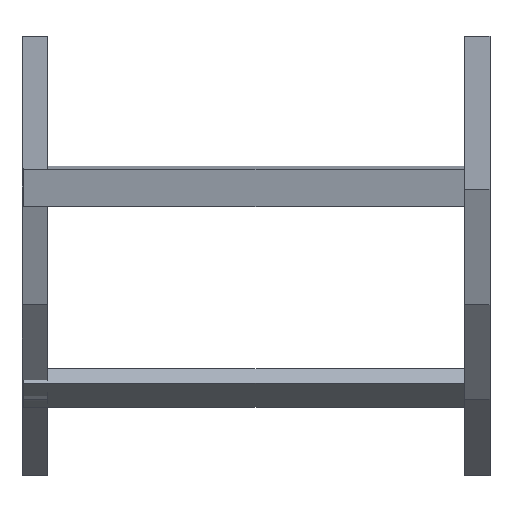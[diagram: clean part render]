
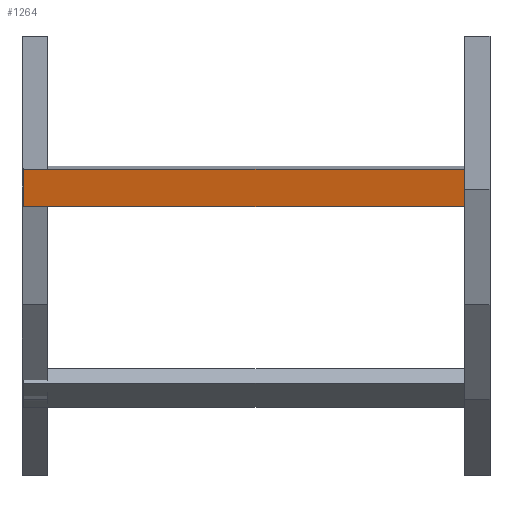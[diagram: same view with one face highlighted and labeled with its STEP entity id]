
A CAD part, front view. The second image highlights one B-rep face of the part: STEP entity #1264.
In plain terms, the highlighted planar face has unit normal (0, -0.985, -0.174) as drawn and (0, -1, 0) by its records, which use the part's own axes.
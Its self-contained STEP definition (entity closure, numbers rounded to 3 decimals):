
#44 = VECTOR ( 'NONE', #504, 1000. ) ;
#49 = VERTEX_POINT ( 'NONE', #1235 ) ;
#86 = ORIENTED_EDGE ( 'NONE', *, *, #1097, .F. ) ;
#120 = LINE ( 'NONE', #367, #332 ) ;
#187 = VECTOR ( 'NONE', #600, 1000. ) ;
#218 = VERTEX_POINT ( 'NONE', #839 ) ;
#240 = DIRECTION ( 'NONE',  ( -1., 0., 0. ) ) ;
#272 = LINE ( 'NONE', #1529, #44 ) ;
#274 = EDGE_CURVE ( 'NONE', #904, #49, #495, .T. ) ;
#332 = VECTOR ( 'NONE', #240, 1000. ) ;
#367 = CARTESIAN_POINT ( 'NONE',  ( 248., 0., -20.25 ) ) ;
#385 = VECTOR ( 'NONE', #1232, 1000. ) ;
#455 = PLANE ( 'NONE',  #733 ) ;
#495 = LINE ( 'NONE', #744, #187 ) ;
#503 = EDGE_LOOP ( 'NONE', ( #1562, #86, #988, #1288 ) ) ;
#504 = DIRECTION ( 'NONE',  ( -1., 0., 0. ) ) ;
#600 = DIRECTION ( 'NONE',  ( 0., 0., -1. ) ) ;
#707 = DIRECTION ( 'NONE',  ( 0., 1., 0. ) ) ;
#710 = CARTESIAN_POINT ( 'NONE',  ( -248., 0., 20.25 ) ) ;
#733 = AXIS2_PLACEMENT_3D ( 'NONE', #1487, #707, #826 ) ;
#744 = CARTESIAN_POINT ( 'NONE',  ( -248., 0., 20.25 ) ) ;
#826 = DIRECTION ( 'NONE',  ( 0., 0., 1. ) ) ;
#839 = CARTESIAN_POINT ( 'NONE',  ( 248., 0., 20.25 ) ) ;
#904 = VERTEX_POINT ( 'NONE', #710 ) ;
#988 = ORIENTED_EDGE ( 'NONE', *, *, #1348, .F. ) ;
#1097 = EDGE_CURVE ( 'NONE', #1203, #49, #120, .T. ) ;
#1163 = CARTESIAN_POINT ( 'NONE',  ( 248., 0., -20.25 ) ) ;
#1203 = VERTEX_POINT ( 'NONE', #1163 ) ;
#1232 = DIRECTION ( 'NONE',  ( 0., 0., -1. ) ) ;
#1235 = CARTESIAN_POINT ( 'NONE',  ( -248., 0., -20.25 ) ) ;
#1264 = ADVANCED_FACE ( 'NONE', ( #1419 ), #455, .F. ) ;
#1288 = ORIENTED_EDGE ( 'NONE', *, *, #1523, .T. ) ;
#1348 = EDGE_CURVE ( 'NONE', #218, #1203, #1382, .T. ) ;
#1382 = LINE ( 'NONE', #1513, #385 ) ;
#1419 = FACE_OUTER_BOUND ( 'NONE', #503, .T. ) ;
#1487 = CARTESIAN_POINT ( 'NONE',  ( 248., 0., 20.25 ) ) ;
#1513 = CARTESIAN_POINT ( 'NONE',  ( 248., 0., 20.25 ) ) ;
#1523 = EDGE_CURVE ( 'NONE', #218, #904, #272, .T. ) ;
#1529 = CARTESIAN_POINT ( 'NONE',  ( 248., 0., 20.25 ) ) ;
#1562 = ORIENTED_EDGE ( 'NONE', *, *, #274, .T. ) ;
